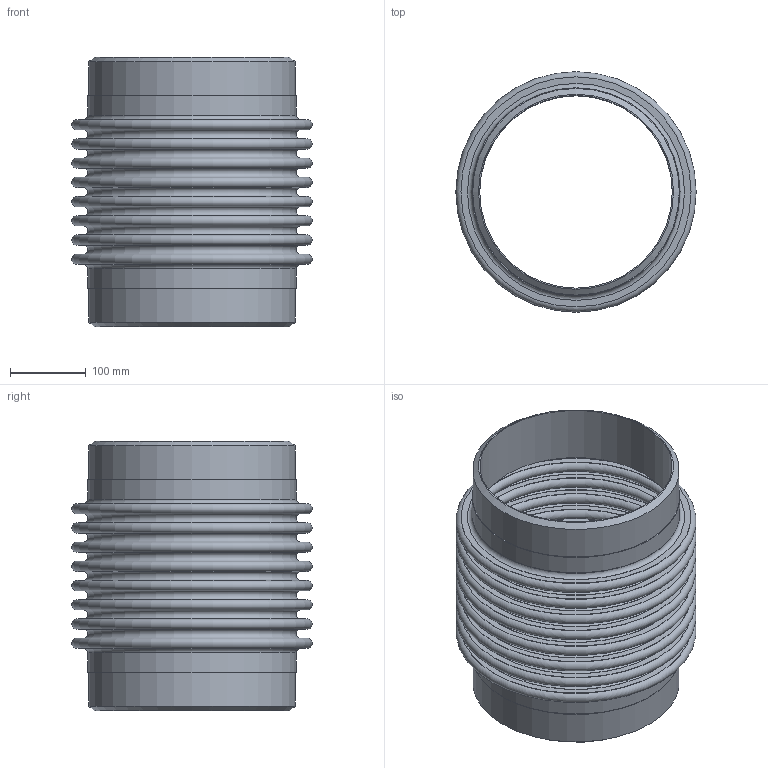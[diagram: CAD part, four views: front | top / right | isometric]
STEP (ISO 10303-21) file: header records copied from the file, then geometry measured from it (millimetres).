
FILE_DESCRIPTION(/* description */ (''),/* implementation_level */ '2;1');
FILE_NAME(/* name */ 'PIPE- 10- 85 PSIG.stp',/* time_stamp */ '2026-07-23T09:29:47-05:00',/* author */ ('jorgef'),/* organization */ (''),/* preprocessor_version */ 'ST-DEVELOPER v20.1',/* originating_system */ 'Autodesk Inventor 2026',/* authorisation */ '');
FILE_SCHEMA (('AUTOMOTIVE_DESIGN { 1 0 10303 214 3 1 1 }'));
Length unit declared in the file: inch
Products named in the file (1): PIPE-10- 85 PSIG ASSEMBLY PART
Bounding box: 317.5 x 317.5 x 355.6 mm (x, y, z)
Volume: 1560303.7 mm3; surface area: 1126177 mm2
Topology: 1 solids, 1 shells, 80 faces, 126 edges, 84 vertices
Faces by surface type: plane 38, torus 34, cylinder 6, cone 2
Full cylindrical faces by diameter (mm): 254.508 x2, 273.05 x2, 274.879 x2
Entity records: 2035 total; most frequent: DIRECTION 406, CARTESIAN_POINT 291, ORIENTED_EDGE 252, AXIS2_PLACEMENT_3D 199, EDGE_CURVE 126, EDGE_LOOP 118, CIRCLE 118, VERTEX_POINT 84
